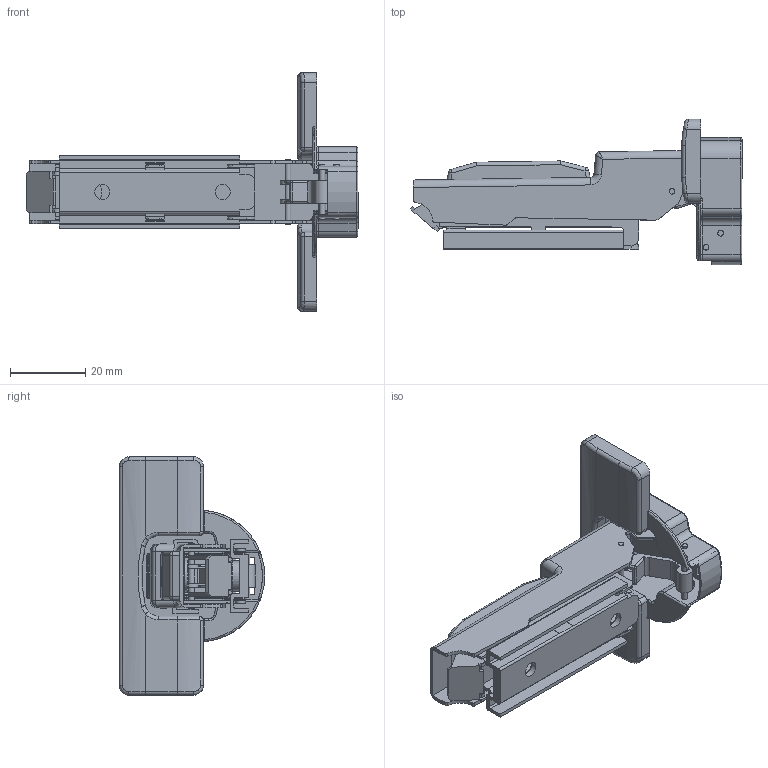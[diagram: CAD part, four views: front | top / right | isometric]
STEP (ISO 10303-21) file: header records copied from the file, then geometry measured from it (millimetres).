
FILE_DESCRIPTION(/* description */ (''),/* implementation_level */ '2;1');
FILE_NAME(/* name */ 'D:\$Workingspace\Designs\Katalog\Cadsoft\GTV Zawiasy\ZM-DCHCB(07)(08)(09)-3DBEO_PRO\ZM-DCHCB08-3DBEO.stp',/* time_stamp */ '2021-09-16T10:47:43+02:00',/* author */ ('tomaszw'),/* organization */ (''),/* preprocessor_version */ 'ST-DEVELOPER v18.1',/* originating_system */ 'Autodesk Inventor 2021',/* authorisation */ '');
FILE_SCHEMA (('AUTOMOTIVE_DESIGN { 1 0 10303 214 3 1 1 }'));
Length unit declared in the file: millimetre
Products named in the file (14): ZM-DCHC08BEO; ZM-DCHCB_Prow; ZM-DCHC0_2; ZM-DCHC0_1; ZM-DCHC0_4-FI35_45_w; ZM-DCHC0_3; ZM-DCHC08; ZM-DCHC0_Pin1; ZM-DCHC0_5; REG_1; REG_2; ZM-DCHC0_Pin2; ZM-ECHC0-NR9; ZM-DCHCB_ZP
Assembly tree (15 placements, depth 2):
  ZM-DCHC08BEO
    ZM-DCHCB_Prow
    ZM-DCHC0_2
    ZM-DCHC0_1
    ZM-DCHC0_4-FI35_45_w
    ZM-DCHC0_3
    ZM-DCHC08
    ZM-DCHC0_Pin1  x2
    ZM-DCHC0_5
    REG_1
    REG_2
    ZM-DCHC0_Pin2  x2
    ZM-ECHC0-NR9
    ZM-DCHCB_ZP
Bounding box: 88.31 x 38.7 x 63.4 mm (x, y, z)
Volume: 12568 mm3; surface area: 28842.6 mm2
Topology: 16 solids, 17 shells, 825 faces, 2114 edges, 1329 vertices
Faces by surface type: plane 376, cylinder 304, torus 70, bspline 59, sphere 12, cone 4
Full cylindrical faces by diameter (mm): 1.5 x19, 4 x2, 6.5 x1, 7 x2, 7.4 x1, 8 x3, 8.5 x1
Entity records: 27380 total; most frequent: CARTESIAN_POINT 6008, DIRECTION 4258, ORIENTED_EDGE 4204, EDGE_CURVE 2102, AXIS2_PLACEMENT_3D 1492, VERTEX_POINT 1325, LINE 1274, VECTOR 1274
